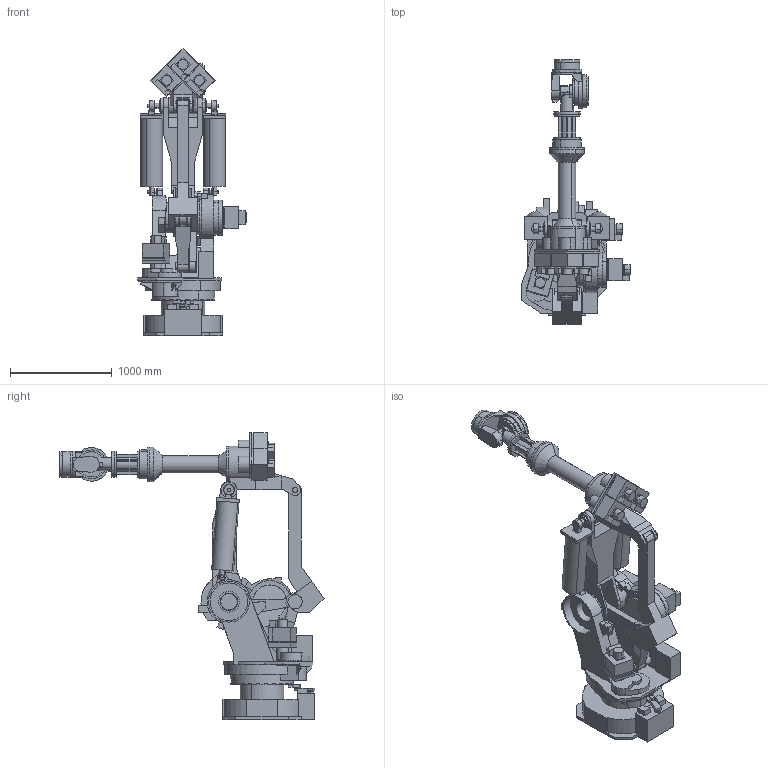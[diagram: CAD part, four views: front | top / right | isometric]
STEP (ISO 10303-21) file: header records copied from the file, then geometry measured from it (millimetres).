
FILE_DESCRIPTION(('CATIA V5 STEP Exchange'),'2;1');
FILE_NAME('F:\☆新しいフォルダ\【K-ROSET】\K-ROSET_モデル\ロボット\※ヤスナ様依頼分データ確認\_MX420L_簡素化\MX420L catiaASSY.stp','2015-09-11T07:31:48+00:00',('none'),('none'),'Version 5-6 Release 2012','CATIA V5 STEP AP203','none');
FILE_SCHEMA(('CONFIG_CONTROL_DESIGN'));
Length unit declared in the file: millimetre
Products named in the file (1): MX420L catiaASSY
Assembly tree (11 placements, depth 2):
  MX420L catiaASSY
    #57
    #1816
    #15276
    #19394
    #20041
    #22176
    #23758
    #23862
    #25454
    #26321
    #27175
Bounding box: 1066.5 x 2594.34 x 2826.06 mm (x, y, z)
Surface area: 17521302 mm2 (no closed solid volume)
Topology: 0 solids, 13 shells, 1086 faces, 2922 edges, 1952 vertices
Faces by surface type: plane 736, cylinder 332, cone 14, bspline 4
Entity records: 32690 total; most frequent: CARTESIAN_POINT 6559, ORIENTED_EDGE 5844, DIRECTION 4409, EDGE_CURVE 2922, VECTOR 1956, LINE 1956, VERTEX_POINT 1952, AXIS2_PLACEMENT_3D 1677
